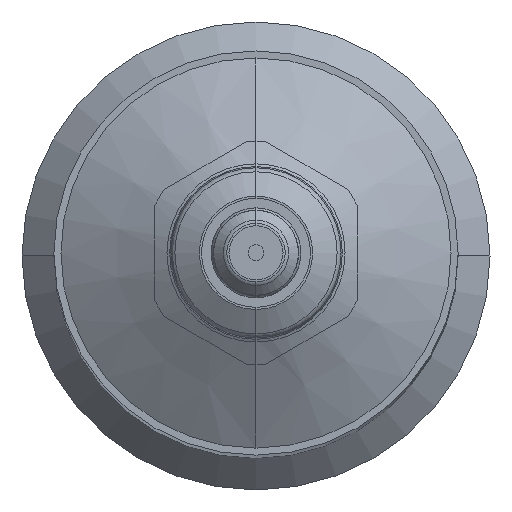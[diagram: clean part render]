
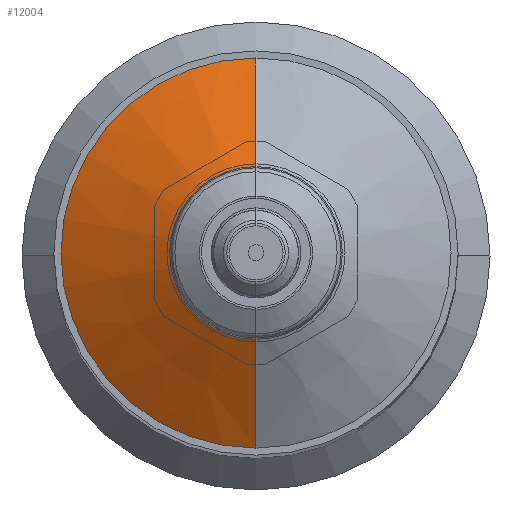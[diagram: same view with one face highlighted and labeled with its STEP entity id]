
A CAD part, top view. The second image highlights one B-rep face of the part: STEP entity #12004.
In plain terms, the highlighted conical face has half-angle 60 degrees and reference radius 38 mm.
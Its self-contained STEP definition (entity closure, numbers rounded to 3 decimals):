
#128 = CIRCLE ( 'NONE', #13818, 36.679 ) ;
#130 = CIRCLE ( 'NONE', #13820, 16.241 ) ;
#134 = LINE ( 'NONE', #16397, #135 ) ;
#135 = VECTOR ( 'NONE', #16398, 1000. ) ;
#142 = LINE ( 'NONE', #16405, #143 ) ;
#143 = VECTOR ( 'NONE', #16406, 1000. ) ;
#3703 = FACE_OUTER_BOUND ( 'NONE', #7916, .T. ) ;
#3709 = CONICAL_SURFACE ( 'NONE', #17904, 38., 1.047 ) ;
#5843 = ORIENTED_EDGE ( 'NONE', *, *, #17802, .F. ) ;
#5846 = ORIENTED_EDGE ( 'NONE', *, *, #17804, .F. ) ;
#5851 = ORIENTED_EDGE ( 'NONE', *, *, #17811, .F. ) ;
#5859 = ORIENTED_EDGE ( 'NONE', *, *, #17807, .T. ) ;
#7916 = EDGE_LOOP ( 'NONE', ( #5846, #5859, #5843, #5851 ) ) ;
#11706 = CARTESIAN_POINT ( 'NONE',  ( 0., 0., 369.238 ) ) ;
#11707 = DIRECTION ( 'NONE',  ( 0., 0., -1. ) ) ;
#11708 = DIRECTION ( 'NONE',  ( 0., -1., 0. ) ) ;
#12004 = ADVANCED_FACE ( 'NONE', ( #3703 ), #3709, .T. ) ;
#13818 = AXIS2_PLACEMENT_3D ( 'NONE', #16383, #16384, #16385 ) ;
#13820 = AXIS2_PLACEMENT_3D ( 'NONE', #16389, #16390, #16391 ) ;
#16383 = CARTESIAN_POINT ( 'NONE',  ( 0., 0., 370. ) ) ;
#16384 = DIRECTION ( 'NONE',  ( 0., 0., -1. ) ) ;
#16385 = DIRECTION ( 'NONE',  ( 1., 0., 0. ) ) ;
#16389 = CARTESIAN_POINT ( 'NONE',  ( 0., 0., 381.8 ) ) ;
#16390 = DIRECTION ( 'NONE',  ( 0., 0., 1. ) ) ;
#16391 = DIRECTION ( 'NONE',  ( 0., 1., 0. ) ) ;
#16397 = CARTESIAN_POINT ( 'NONE',  ( 0., 38., 369.238 ) ) ;
#16398 = DIRECTION ( 'NONE',  ( 0., 0.866, -0.5 ) ) ;
#16405 = CARTESIAN_POINT ( 'NONE',  ( 0., -38., 369.238 ) ) ;
#16406 = DIRECTION ( 'NONE',  ( 0., -0.866, -0.5 ) ) ;
#16607 = CARTESIAN_POINT ( 'NONE',  ( 0., -36.679, 370. ) ) ;
#16608 = CARTESIAN_POINT ( 'NONE',  ( 0., 36.679, 370. ) ) ;
#16612 = CARTESIAN_POINT ( 'NONE',  ( 0., -16.241, 381.8 ) ) ;
#16614 = CARTESIAN_POINT ( 'NONE',  ( 0., 16.241, 381.8 ) ) ;
#17802 = EDGE_CURVE ( 'NONE', #18098, #18099, #128, .T. ) ;
#17804 = EDGE_CURVE ( 'NONE', #18105, #18103, #130, .T. ) ;
#17807 = EDGE_CURVE ( 'NONE', #18105, #18099, #134, .T. ) ;
#17811 = EDGE_CURVE ( 'NONE', #18103, #18098, #142, .T. ) ;
#17904 = AXIS2_PLACEMENT_3D ( 'NONE', #11706, #11707, #11708 ) ;
#18098 = VERTEX_POINT ( 'NONE', #16607 ) ;
#18099 = VERTEX_POINT ( 'NONE', #16608 ) ;
#18103 = VERTEX_POINT ( 'NONE', #16612 ) ;
#18105 = VERTEX_POINT ( 'NONE', #16614 ) ;
